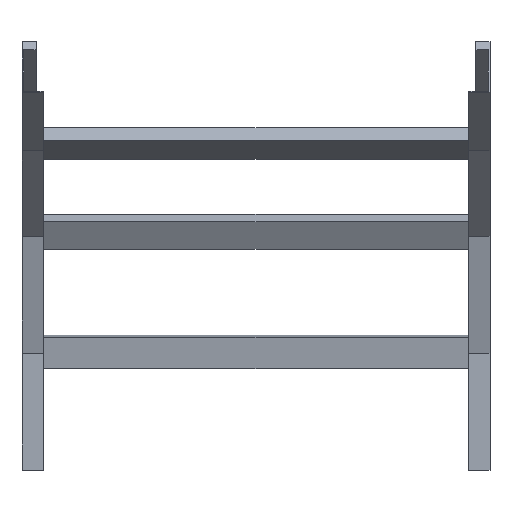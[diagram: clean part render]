
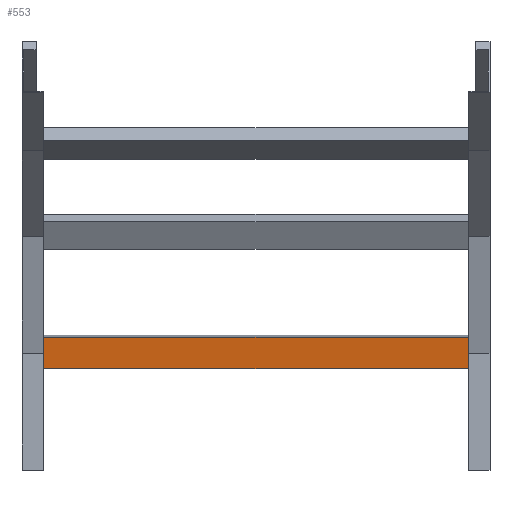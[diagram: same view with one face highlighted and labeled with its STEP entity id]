
A CAD part, front view. The second image highlights one B-rep face of the part: STEP entity #553.
In plain terms, the highlighted planar face has unit normal (0, -0.991, -0.131) as drawn and (0, -1, 0) by its records, which use the part's own axes.
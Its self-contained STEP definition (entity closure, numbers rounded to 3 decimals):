
#14 = DIRECTION ( 'NONE',  ( 0., 1., 0. ) ) ;
#15 = CARTESIAN_POINT ( 'NONE',  ( 298., 0., -20.25 ) ) ;
#25 = DIRECTION ( 'NONE',  ( -1., 0., 0. ) ) ;
#171 = EDGE_CURVE ( 'NONE', #411, #488, #903, .T. ) ;
#216 = EDGE_CURVE ( 'NONE', #1483, #411, #581, .T. ) ;
#345 = VERTEX_POINT ( 'NONE', #15 ) ;
#348 = VECTOR ( 'NONE', #784, 1000. ) ;
#384 = CARTESIAN_POINT ( 'NONE',  ( -298., 0., 20.25 ) ) ;
#404 = LINE ( 'NONE', #901, #669 ) ;
#411 = VERTEX_POINT ( 'NONE', #384 ) ;
#415 = DIRECTION ( 'NONE',  ( 0., 0., 1. ) ) ;
#471 = LINE ( 'NONE', #588, #1401 ) ;
#488 = VERTEX_POINT ( 'NONE', #786 ) ;
#497 = ORIENTED_EDGE ( 'NONE', *, *, #216, .T. ) ;
#553 = ADVANCED_FACE ( 'NONE', ( #1484 ), #1435, .F. ) ;
#581 = LINE ( 'NONE', #1344, #745 ) ;
#588 = CARTESIAN_POINT ( 'NONE',  ( 298., 0., -20.25 ) ) ;
#624 = ORIENTED_EDGE ( 'NONE', *, *, #1399, .F. ) ;
#669 = VECTOR ( 'NONE', #1434, 1000. ) ;
#673 = ORIENTED_EDGE ( 'NONE', *, *, #171, .T. ) ;
#695 = CARTESIAN_POINT ( 'NONE',  ( 298., 0., 20.25 ) ) ;
#745 = VECTOR ( 'NONE', #1067, 1000. ) ;
#754 = AXIS2_PLACEMENT_3D ( 'NONE', #776, #14, #415 ) ;
#776 = CARTESIAN_POINT ( 'NONE',  ( 298., 0., 20.25 ) ) ;
#784 = DIRECTION ( 'NONE',  ( 0., 0., -1. ) ) ;
#786 = CARTESIAN_POINT ( 'NONE',  ( -298., 0., -20.25 ) ) ;
#843 = EDGE_LOOP ( 'NONE', ( #673, #984, #624, #497 ) ) ;
#901 = CARTESIAN_POINT ( 'NONE',  ( 298., 0., 20.25 ) ) ;
#903 = LINE ( 'NONE', #1445, #348 ) ;
#984 = ORIENTED_EDGE ( 'NONE', *, *, #1433, .F. ) ;
#1067 = DIRECTION ( 'NONE',  ( -1., 0., 0. ) ) ;
#1344 = CARTESIAN_POINT ( 'NONE',  ( 298., 0., 20.25 ) ) ;
#1399 = EDGE_CURVE ( 'NONE', #1483, #345, #404, .T. ) ;
#1401 = VECTOR ( 'NONE', #25, 1000. ) ;
#1433 = EDGE_CURVE ( 'NONE', #345, #488, #471, .T. ) ;
#1434 = DIRECTION ( 'NONE',  ( 0., 0., -1. ) ) ;
#1435 = PLANE ( 'NONE',  #754 ) ;
#1445 = CARTESIAN_POINT ( 'NONE',  ( -298., 0., 20.25 ) ) ;
#1483 = VERTEX_POINT ( 'NONE', #695 ) ;
#1484 = FACE_OUTER_BOUND ( 'NONE', #843, .T. ) ;
